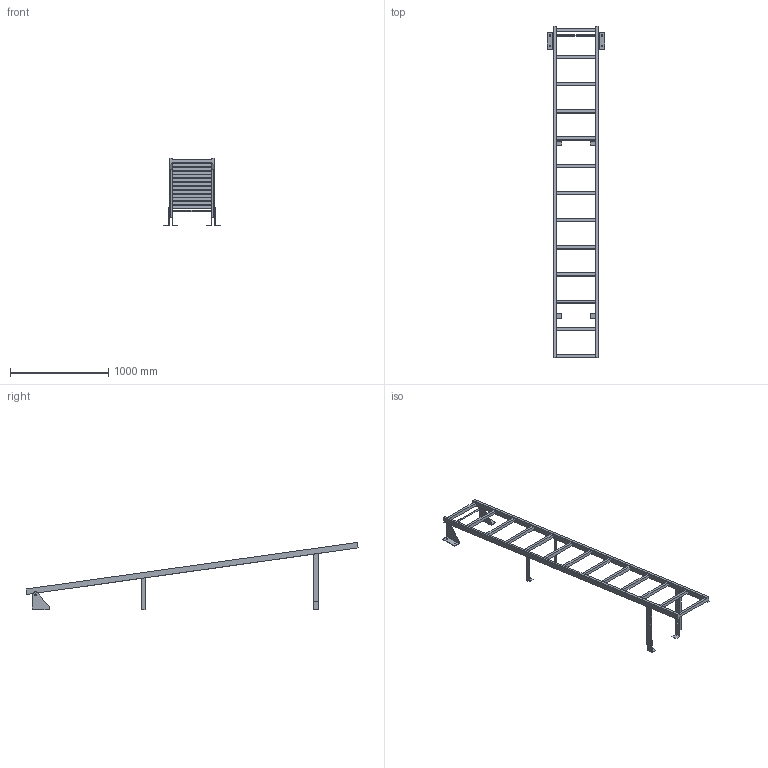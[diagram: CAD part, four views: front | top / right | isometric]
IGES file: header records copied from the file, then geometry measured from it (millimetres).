
Start section:  PTC IGES file: 52307433.igs
Global section: file name: 52307433.igs; native system: Creo Parametric by PTC Inc.; preprocessor: 2022162; author: wep; organization: Unknown; date: 20241016.120601; units: millimetre
Bounding box: 590 x 3384.75 x 685.27 mm (x, y, z)
Surface area: 2148385.9 mm2 (no closed solid volume)
Topology: 0 solids, 0 shells, 138 faces, 736 edges, 736 vertices
Faces by surface type: bspline 122, revolution 16
